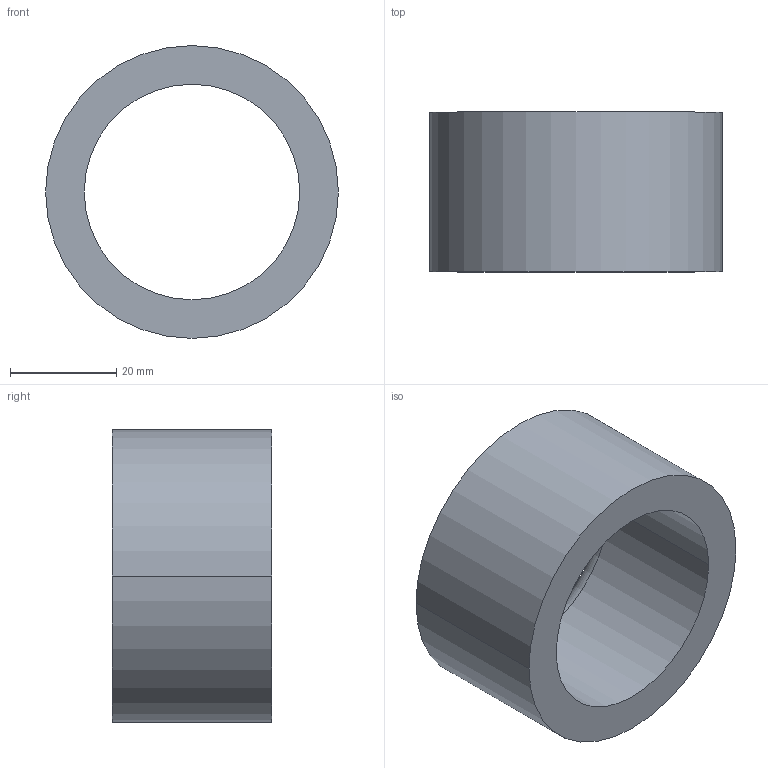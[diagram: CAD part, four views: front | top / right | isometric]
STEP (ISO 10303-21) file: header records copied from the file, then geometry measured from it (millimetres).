
FILE_DESCRIPTION (( 'STEP AP203' ), '1' );
FILE_NAME ('30800.WPP55L40.5.step', '2019-01-23T22:55:44', ( '' ), ( '' ), 'SwSTEP 2.0', 'SolidWorks 2017', '' );
FILE_SCHEMA (( 'CONFIG_CONTROL_DESIGN' ));
Length unit declared in the file: millimetre
Products named in the file (1): 30800.WPP55L40.5
Bounding box: 55 x 30 x 55 mm (x, y, z)
Volume: 32280 mm3; surface area: 10990.1 mm2
Topology: 1 solids, 1 shells, 8 faces, 16 edges, 10 vertices
Faces by surface type: cylinder 4, torus 2, plane 2
Entity records: 297 total; most frequent: DIRECTION 46, CARTESIAN_POINT 35, ORIENTED_EDGE 32, AXIS2_PLACEMENT_3D 21, EDGE_CURVE 16, CIRCLE 12, EDGE_LOOP 10, VERTEX_POINT 10
